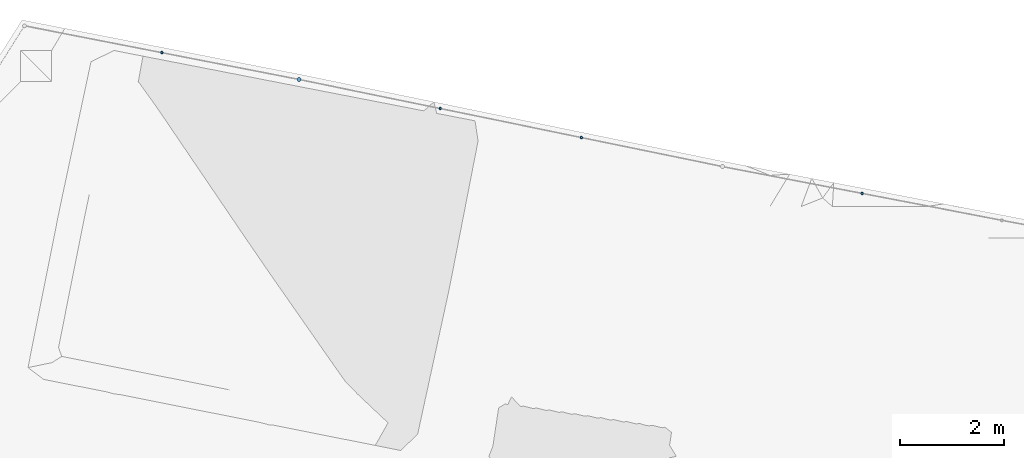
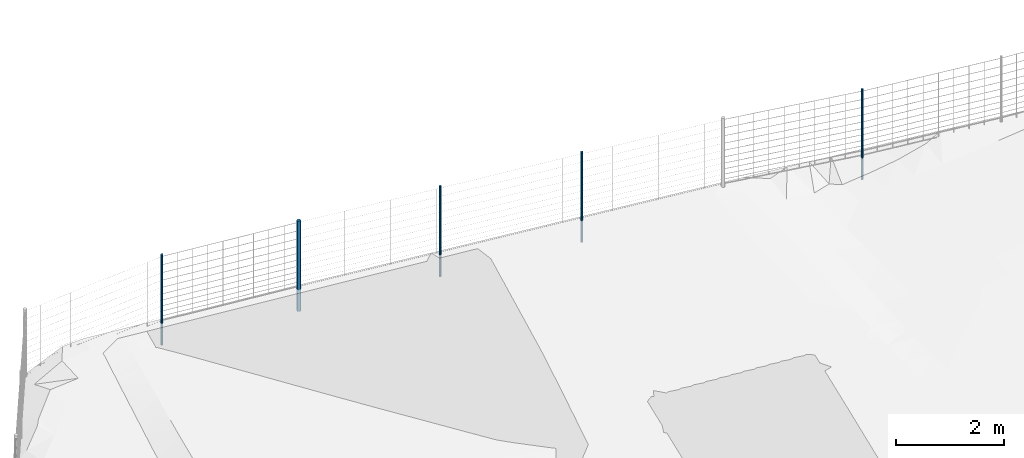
# Not in any storey, part 4 of 72: 5 members.
"""IFC4 model written with IfcOpenShell, lengths in metres."""

from ifc_helpers import new_model, si_unit, direction, frame, origin_with_axes, place, context, subcontext, project, spatial, circle, extrude, material, material_profile, profile_set, profile_usage, type_object, element, save


model = new_model("IFC4")

# Units and contexts
model_context = context("Model", 3, precision=1e-05, world=origin_with_axes(), true_north=direction((0.0, 1.0)))
body_context = subcontext(model_context, "Body", "Model", "MODEL_VIEW")
ifc_project = project(units=[si_unit("AREAUNIT", "SQUARE_METRE"), si_unit("VOLUMEUNIT", "CUBIC_METRE"), si_unit("LENGTHUNIT", "METRE")], contexts=[model_context])

# Site
site_placement = place(None, origin_with_axes())
site = spatial("IfcSite", under=ifc_project, at=site_placement, Name="Lares · Rua das Mercês · artigo 4771")

# Members
ifc_material = material(Name="Aço galvanizado / Stahl verzinkt", Category="steel")
ifc_material_profile_1 = material_profile(ifc_material, circle(Radius=0.038))
ifc_profile_set_1 = profile_set([ifc_material_profile_1], Name="D0.076")
ifc_profile_usage_1 = profile_usage(ifc_profile_set_1)
member_type_1 = type_object("IfcMemberType", Name="D0.076 / galvanized", PredefinedType="NOTDEFINED", material=ifc_profile_set_1)
member_1_placement = place(site_placement, frame((5.84763198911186, 23.4826520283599, 12.9257158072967), z_axis=(0.0, 0.0, 1.0), x_axis=(1.0, -1.03767253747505e-17, 0.0)))
element("IfcMember", 1, at=member_1_placement, inside=site, type_object=member_type_1, material=ifc_profile_usage_1, Name="Vedação · poste de canto/topo", PredefinedType="POST", context=body_context, shape_type="SweptSolid", body=[
    extrude(circle(Radius=0.038), origin_with_axes(), (0.0, 0.0, 1.0), 2.05),
])
ifc_material_profile_2 = material_profile(ifc_material, circle(Radius=0.024))
ifc_profile_set_2 = profile_set([ifc_material_profile_2], Name="D0.048")
ifc_profile_usage_2 = profile_usage(ifc_profile_set_2)
member_type_2 = type_object("IfcMemberType", Name="D0.048 / galvanized", PredefinedType="NOTDEFINED", material=ifc_profile_set_2)
member_2_placement = place(site_placement, frame((3.20956481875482, 23.998535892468, 12.7624327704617), z_axis=(0.0, 0.0, 1.0), x_axis=(1.0, -1.03767253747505e-17, 0.0)))
element("IfcMember", 2, at=member_2_placement, inside=site, type_object=member_type_2, material=ifc_profile_usage_2, Name="Vedação · poste intermédio", PredefinedType="POST", context=body_context, shape_type="SweptSolid", body=[
    extrude(circle(Radius=0.024), origin_with_axes(), (0.0, 0.0, 1.0), 2.05),
])
ifc_profile_usage_3 = profile_usage(ifc_profile_set_2)
member_3_placement = place(site_placement, frame((8.5591161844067, 22.9250415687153, 13.0914189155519), z_axis=(0.0, 0.0, 1.0), x_axis=(1.0, -1.03767253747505e-17, 0.0)))
element("IfcMember", 3, at=member_3_placement, inside=site, type_object=member_type_2, material=ifc_profile_usage_3, Name="Vedação · poste intermédio", PredefinedType="POST", context=body_context, shape_type="SweptSolid", body=[
    extrude(circle(Radius=0.024), origin_with_axes(), (0.0, 0.0, 1.0), 2.05),
])
ifc_profile_usage_4 = profile_usage(ifc_profile_set_2)
member_4_placement = place(site_placement, frame((11.2706003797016, 22.3674311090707, 13.2571220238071), z_axis=(0.0, 0.0, 1.0), x_axis=(1.0, -1.03767253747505e-17, 0.0)))
element("IfcMember", 4, at=member_4_placement, inside=site, type_object=member_type_2, material=ifc_profile_usage_4, Name="Vedação · poste intermédio", PredefinedType="POST", context=body_context, shape_type="SweptSolid", body=[
    extrude(circle(Radius=0.024), origin_with_axes(), (0.0, 0.0, 1.0), 2.05),
])
ifc_profile_usage_5 = profile_usage(ifc_profile_set_2)
member_5_placement = place(site_placement, frame((16.6665323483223, 21.2935447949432, 13.4394665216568), z_axis=(0.0, 0.0, 1.0), x_axis=(1.0, -1.03767253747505e-17, 0.0)))
element("IfcMember", 5, at=member_5_placement, inside=site, type_object=member_type_2, material=ifc_profile_usage_5, Name="Vedação · poste intermédio", PredefinedType="POST", context=body_context, shape_type="SweptSolid", body=[
    extrude(circle(Radius=0.024), origin_with_axes(), (0.0, 0.0, 1.0), 2.05),
])

save(model, "model.ifc")
